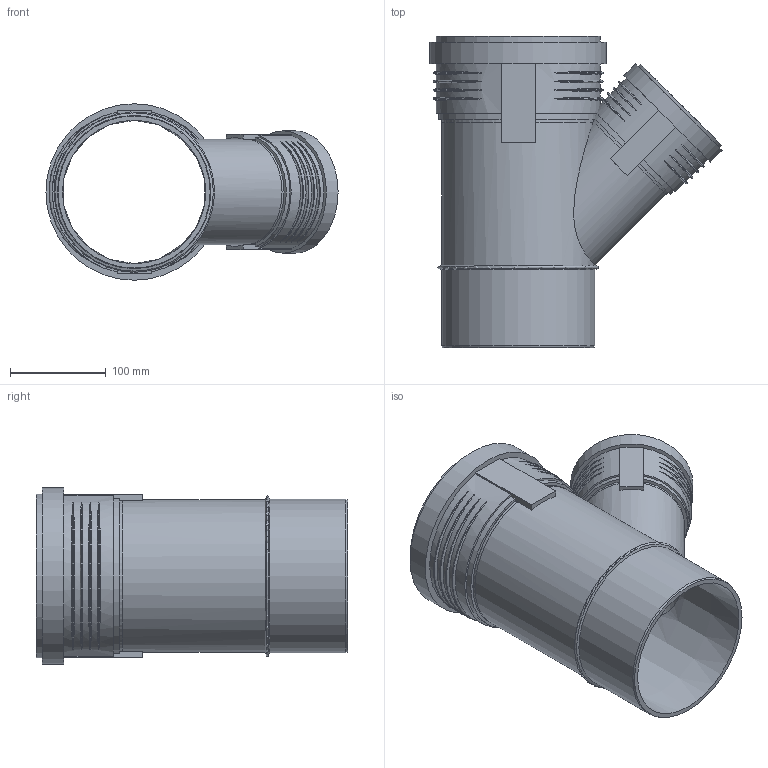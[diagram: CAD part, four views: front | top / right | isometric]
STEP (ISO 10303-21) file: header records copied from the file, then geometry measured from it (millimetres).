
FILE_DESCRIPTION(/* description */ (''),/* implementation_level */ '2;1');
FILE_NAME(/* name */ 'Z:\Geberit\Export\NewStep\390735.stp',/* time_stamp */ '2014-04-02T08:16:47+02:00',/* author */ ('ML'),/* organization */ (''),/* preprocessor_version */ 'ST-DEVELOPER v15.2',/* originating_system */ 'Autodesk Inventor 2014',/* authorisation */ '');
FILE_SCHEMA (('AUTOMOTIVE_DESIGN { 1 0 10303 214 3 1 1 }'));
Length unit declared in the file: millimetre
Products named in the file (4): 861604; 861404; 861560; 390735
Bounding box: 305.57 x 325.5 x 184.5 mm (x, y, z)
Volume: 1031185.7 mm3; surface area: 464726.3 mm2
Topology: 3 solids, 3 shells, 125 faces, 306 edges, 213 vertices
Faces by surface type: torus 50, plane 37, cylinder 31, cone 7
Full cylindrical faces by diameter (mm): 103 x1, 103.2 x1, 110.2 x2, 113.3 x2, 120.3 x1, 121.1 x1, 128.1 x1, 150.65 x1, 160.25 x2, 161.7 x2, 171.3 x1, 174.9 x1, 184.5 x1
Entity records: 5220 total; most frequent: CARTESIAN_POINT 2273, ORIENTED_EDGE 548, DIRECTION 534, EDGE_CURVE 274, AXIS2_PLACEMENT_3D 231, VERTEX_POINT 206, EDGE_LOOP 184, STYLED_ITEM 125
